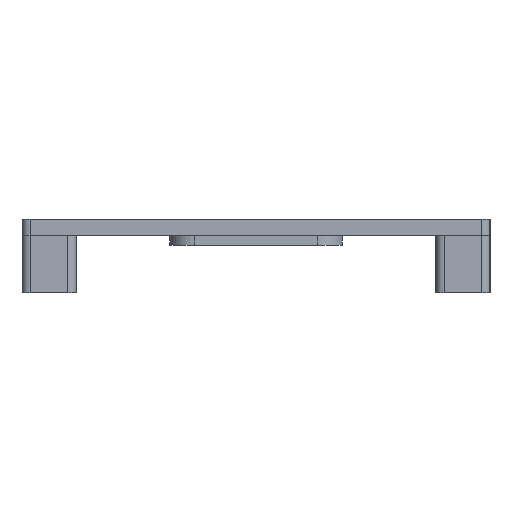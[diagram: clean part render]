
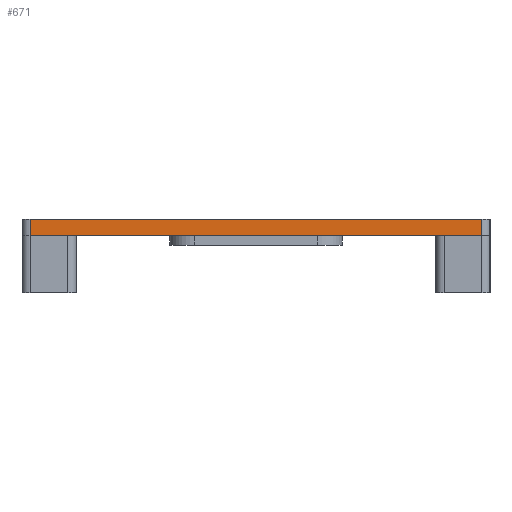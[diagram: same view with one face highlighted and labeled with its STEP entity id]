
A CAD part, left-side view. The second image highlights one B-rep face of the part: STEP entity #671.
In plain terms, the highlighted planar face has unit normal (-1, 0, 0).
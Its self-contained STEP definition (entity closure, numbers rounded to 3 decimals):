
#44 = VECTOR ( 'NONE', #2076, 1000. ) ;
#102 = ORIENTED_EDGE ( 'NONE', *, *, #3208, .F. ) ;
#202 = LINE ( 'NONE', #517, #44 ) ;
#327 = CARTESIAN_POINT ( 'NONE',  ( -43.965, 27.5, 7. ) ) ;
#334 = CARTESIAN_POINT ( 'NONE',  ( -43.965, 27.5, 7. ) ) ;
#398 = DIRECTION ( 'NONE',  ( 0., 0., 1. ) ) ;
#488 = FACE_OUTER_BOUND ( 'NONE', #1178, .T. ) ;
#494 = VECTOR ( 'NONE', #3191, 1000. ) ;
#517 = CARTESIAN_POINT ( 'NONE',  ( -43.965, 0., 7. ) ) ;
#551 = CARTESIAN_POINT ( 'NONE',  ( -43.965, -27.5, 9. ) ) ;
#554 = LINE ( 'NONE', #327, #494 ) ;
#671 = ADVANCED_FACE ( 'NONE', ( #488 ), #1014, .T. ) ;
#912 = EDGE_CURVE ( 'NONE', #2306, #3360, #554, .T. ) ;
#933 = CARTESIAN_POINT ( 'NONE',  ( -43.965, 27.5, 9. ) ) ;
#975 = ORIENTED_EDGE ( 'NONE', *, *, #1141, .T. ) ;
#985 = ORIENTED_EDGE ( 'NONE', *, *, #912, .T. ) ;
#1014 = PLANE ( 'NONE',  #2782 ) ;
#1031 = ORIENTED_EDGE ( 'NONE', *, *, #1080, .T. ) ;
#1048 = CARTESIAN_POINT ( 'NONE',  ( -43.965, 0., 0. ) ) ;
#1080 = EDGE_CURVE ( 'NONE', #1143, #1260, #1954, .T. ) ;
#1141 = EDGE_CURVE ( 'NONE', #3360, #1143, #202, .T. ) ;
#1143 = VERTEX_POINT ( 'NONE', #1848 ) ;
#1178 = EDGE_LOOP ( 'NONE', ( #975, #1031, #102, #985 ) ) ;
#1260 = VERTEX_POINT ( 'NONE', #551 ) ;
#1551 = LINE ( 'NONE', #2089, #1755 ) ;
#1564 = VECTOR ( 'NONE', #398, 1000. ) ;
#1595 = DIRECTION ( 'NONE',  ( 0., -1., 0. ) ) ;
#1755 = VECTOR ( 'NONE', #2622, 1000. ) ;
#1848 = CARTESIAN_POINT ( 'NONE',  ( -43.965, -27.5, 7. ) ) ;
#1954 = LINE ( 'NONE', #3013, #1564 ) ;
#2065 = DIRECTION ( 'NONE',  ( -1., 0., 0. ) ) ;
#2076 = DIRECTION ( 'NONE',  ( 0., -1., 0. ) ) ;
#2089 = CARTESIAN_POINT ( 'NONE',  ( -43.965, 0., 9. ) ) ;
#2306 = VERTEX_POINT ( 'NONE', #933 ) ;
#2622 = DIRECTION ( 'NONE',  ( 0., -1., 0. ) ) ;
#2782 = AXIS2_PLACEMENT_3D ( 'NONE', #1048, #2065, #1595 ) ;
#3013 = CARTESIAN_POINT ( 'NONE',  ( -43.965, -27.5, 9. ) ) ;
#3191 = DIRECTION ( 'NONE',  ( 0., 0., -1. ) ) ;
#3208 = EDGE_CURVE ( 'NONE', #2306, #1260, #1551, .T. ) ;
#3360 = VERTEX_POINT ( 'NONE', #334 ) ;
